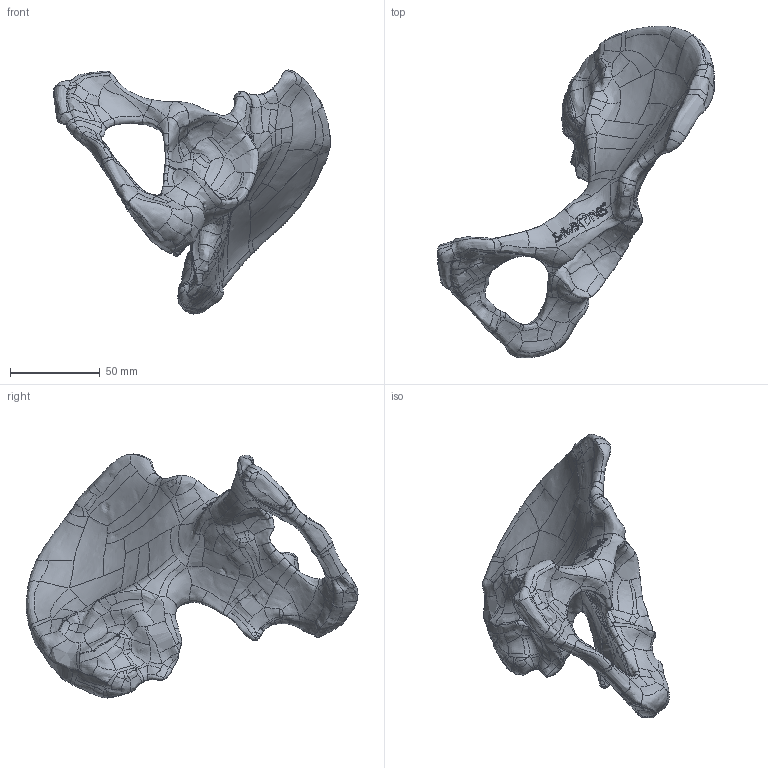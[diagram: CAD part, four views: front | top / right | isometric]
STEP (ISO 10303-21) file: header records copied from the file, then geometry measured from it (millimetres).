
FILE_DESCRIPTION (( 'STEP AP203' ), '1' );
FILE_NAME ('1291-1.STEP', '2025-06-05T18:04:34', ( '' ), ( '' ), 'SwSTEP 2.0', 'SolidWorks 2024', '' );
FILE_SCHEMA (( 'CONFIG_CONTROL_DESIGN' ));
Products named in the file (1): 1291-1
Bounding box: 154.64 x 185.38 x 136.24 mm (x, y, z)
Volume: 212607.4 mm3; surface area: 49784.9 mm2
Topology: 1 solids, 1 shells, 731 faces, 1879 edges, 1152 vertices
Faces by surface type: bspline 730, plane 1
Entity records: 330004 total; most frequent: CARTESIAN_POINT 318317, ORIENTED_EDGE 3758, EDGE_CURVE 1879, B_SPLINE_CURVE_WITH_KNOTS 1879, VERTEX_POINT 1152, EDGE_LOOP 735, FACE_OUTER_BOUND 731, ADVANCED_FACE 731
